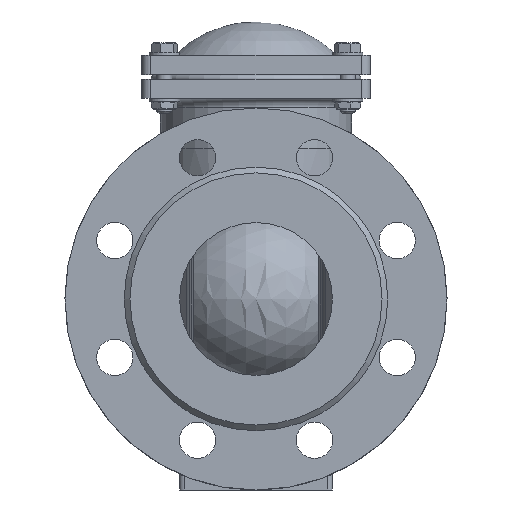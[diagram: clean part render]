
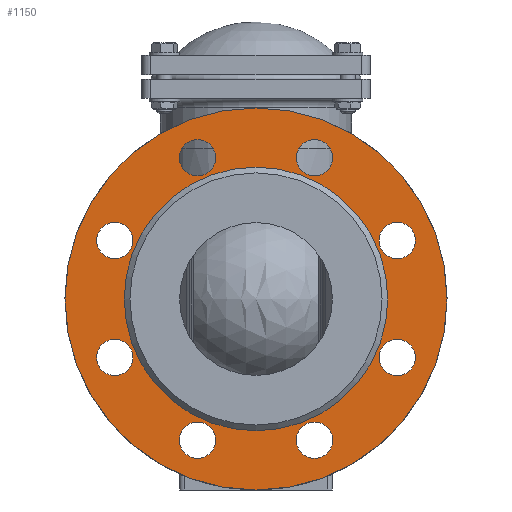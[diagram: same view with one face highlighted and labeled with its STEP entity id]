
A CAD part, left-side view. The second image highlights one B-rep face of the part: STEP entity #1150.
In plain terms, the highlighted planar face has unit normal (-1, 0, 0).
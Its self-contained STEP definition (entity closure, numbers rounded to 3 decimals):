
#1150=ADVANCED_FACE('',(#4447,#4449,#4451,#4453,#4455,#4457,#4459,#4461,#4463,#4465),
#4467,.F.);
#4447=FACE_BOUND('',#4448,.T.);
#4448=EDGE_LOOP('',(#9226));
#4449=FACE_BOUND('',#4450,.T.);
#4450=EDGE_LOOP('',(#9227));
#4451=FACE_BOUND('',#4452,.T.);
#4452=EDGE_LOOP('',(#9228));
#4453=FACE_BOUND('',#4454,.T.);
#4454=EDGE_LOOP('',(#9229));
#4455=FACE_BOUND('',#4456,.T.);
#4456=EDGE_LOOP('',(#9230));
#4457=FACE_BOUND('',#4458,.T.);
#4458=EDGE_LOOP('',(#9231));
#4459=FACE_BOUND('',#4460,.T.);
#4460=EDGE_LOOP('',(#9232));
#4461=FACE_BOUND('',#4462,.T.);
#4462=EDGE_LOOP('',(#9233));
#4463=FACE_BOUND('',#4464,.T.);
#4464=EDGE_LOOP('',(#9234));
#4465=FACE_BOUND('',#4466,.T.);
#4466=EDGE_LOOP('',(#9235));
#4467=PLANE('',#4468);
#4468=AXIS2_PLACEMENT_3D('',#4469,#4470,#4471);
#4469=CARTESIAN_POINT('',(-257.,0.,0.));
#4470=DIRECTION('',(1.,0.,0.));
#4471=DIRECTION('',(0.,0.,1.));
#9226=ORIENTED_EDGE('',*,*,#11893,.T.);
#9227=ORIENTED_EDGE('',*,*,#11894,.T.);
#9228=ORIENTED_EDGE('',*,*,#11895,.T.);
#9229=ORIENTED_EDGE('',*,*,#11896,.T.);
#9230=ORIENTED_EDGE('',*,*,#11897,.T.);
#9231=ORIENTED_EDGE('',*,*,#11898,.T.);
#9232=ORIENTED_EDGE('',*,*,#11899,.T.);
#9233=ORIENTED_EDGE('',*,*,#11900,.T.);
#9234=ORIENTED_EDGE('',*,*,#11901,.T.);
#9235=ORIENTED_EDGE('',*,*,#11878,.F.);
#11878=EDGE_CURVE('',#13052,#13052,#13053,.T.);
#11893=EDGE_CURVE('',#13080,#13080,#13081,.T.);
#11894=EDGE_CURVE('',#13082,#13082,#13083,.T.);
#11895=EDGE_CURVE('',#13084,#13084,#13085,.T.);
#11896=EDGE_CURVE('',#13086,#13086,#13087,.T.);
#11897=EDGE_CURVE('',#13088,#13088,#13089,.T.);
#11898=EDGE_CURVE('',#13090,#13090,#13091,.T.);
#11899=EDGE_CURVE('',#13092,#13092,#13093,.T.);
#11900=EDGE_CURVE('',#13094,#13094,#13095,.T.);
#11901=EDGE_CURVE('',#13096,#13096,#13097,.T.);
#13052=VERTEX_POINT('',#16201);
#13053=CIRCLE('',#16202,69.);
#13080=VERTEX_POINT('',#16531);
#13081=CIRCLE('',#16532,100.);
#13082=VERTEX_POINT('',#16536);
#13083=CIRCLE('',#16537,9.5);
#13084=VERTEX_POINT('',#16541);
#13085=CIRCLE('',#16542,9.5);
#13086=VERTEX_POINT('',#16546);
#13087=CIRCLE('',#16547,9.5);
#13088=VERTEX_POINT('',#16551);
#13089=CIRCLE('',#16552,9.5);
#13090=VERTEX_POINT('',#16556);
#13091=CIRCLE('',#16557,9.5);
#13092=VERTEX_POINT('',#16561);
#13093=CIRCLE('',#16562,9.5);
#13094=VERTEX_POINT('',#16566);
#13095=CIRCLE('',#16567,9.5);
#13096=VERTEX_POINT('',#16571);
#13097=CIRCLE('',#16572,9.5);
#16201=CARTESIAN_POINT('',(-257.,0.,69.));
#16202=AXIS2_PLACEMENT_3D('',#16203,#16204,#16205);
#16203=CARTESIAN_POINT('',(-257.,0.,0.));
#16204=DIRECTION('',(-1.,0.,0.));
#16205=DIRECTION('',(0.,0.,1.));
#16531=CARTESIAN_POINT('',(-257.,0.,100.));
#16532=AXIS2_PLACEMENT_3D('',#16533,#16534,#16535);
#16533=CARTESIAN_POINT('',(-257.,0.,0.));
#16534=DIRECTION('',(-1.,0.,0.));
#16535=DIRECTION('',(0.,0.,1.));
#16536=CARTESIAN_POINT('',(-257.,83.41,30.615));
#16537=AXIS2_PLACEMENT_3D('',#16538,#16539,#16540);
#16538=CARTESIAN_POINT('',(-257.,73.91,30.615));
#16539=DIRECTION('',(1.,0.,0.));
#16540=DIRECTION('',(0.,1.,0.));
#16541=CARTESIAN_POINT('',(-257.,37.332,80.628));
#16542=AXIS2_PLACEMENT_3D('',#16543,#16544,#16545);
#16543=CARTESIAN_POINT('',(-257.,30.615,73.91));
#16544=DIRECTION('',(1.,0.,0.));
#16545=DIRECTION('',(0.,0.707,0.707));
#16546=CARTESIAN_POINT('',(-257.,-30.615,83.41));
#16547=AXIS2_PLACEMENT_3D('',#16548,#16549,#16550);
#16548=CARTESIAN_POINT('',(-257.,-30.615,73.91));
#16549=DIRECTION('',(1.,0.,0.));
#16550=DIRECTION('',(0.,0.,1.));
#16551=CARTESIAN_POINT('',(-257.,-80.628,37.332));
#16552=AXIS2_PLACEMENT_3D('',#16553,#16554,#16555);
#16553=CARTESIAN_POINT('',(-257.,-73.91,30.615));
#16554=DIRECTION('',(1.,0.,0.));
#16555=DIRECTION('',(0.,-0.707,0.707));
#16556=CARTESIAN_POINT('',(-257.,-83.41,-30.615));
#16557=AXIS2_PLACEMENT_3D('',#16558,#16559,#16560);
#16558=CARTESIAN_POINT('',(-257.,-73.91,-30.615));
#16559=DIRECTION('',(1.,0.,0.));
#16560=DIRECTION('',(0.,-1.,0.));
#16561=CARTESIAN_POINT('',(-257.,-37.332,-80.628));
#16562=AXIS2_PLACEMENT_3D('',#16563,#16564,#16565);
#16563=CARTESIAN_POINT('',(-257.,-30.615,-73.91));
#16564=DIRECTION('',(1.,0.,0.));
#16565=DIRECTION('',(0.,-0.707,-0.707));
#16566=CARTESIAN_POINT('',(-257.,30.615,-83.41));
#16567=AXIS2_PLACEMENT_3D('',#16568,#16569,#16570);
#16568=CARTESIAN_POINT('',(-257.,30.615,-73.91));
#16569=DIRECTION('',(1.,0.,0.));
#16570=DIRECTION('',(0.,0.,-1.));
#16571=CARTESIAN_POINT('',(-257.,80.628,-37.332));
#16572=AXIS2_PLACEMENT_3D('',#16573,#16574,#16575);
#16573=CARTESIAN_POINT('',(-257.,73.91,-30.615));
#16574=DIRECTION('',(1.,0.,0.));
#16575=DIRECTION('',(0.,0.707,-0.707));
